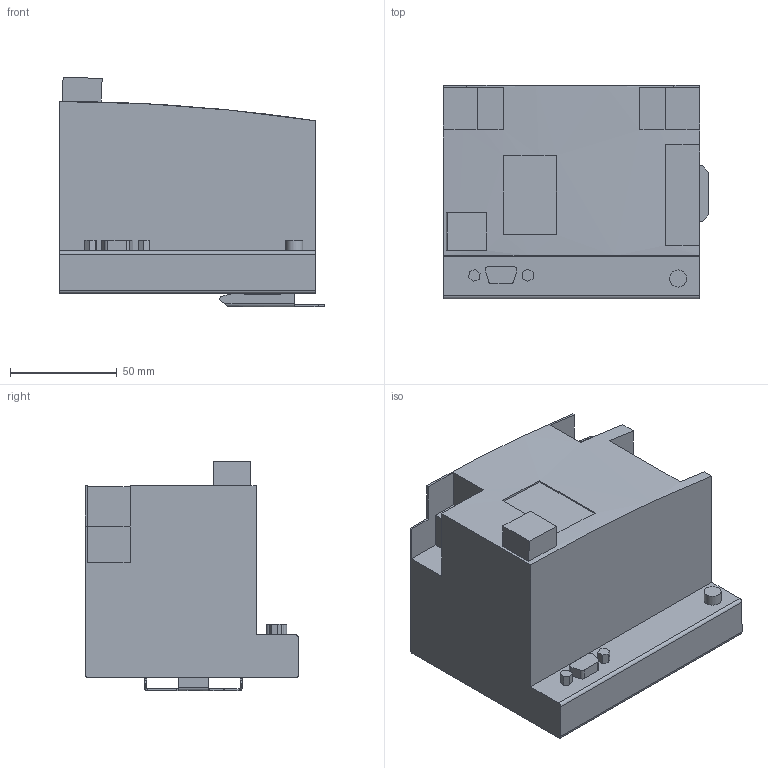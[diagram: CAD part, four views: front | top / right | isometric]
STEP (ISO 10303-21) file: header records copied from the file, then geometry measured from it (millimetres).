
FILE_DESCRIPTION(/* description */ ('Alibre Inc.'),/* implementation_level */ '2;1');
FILE_NAME(/* name */ 'export0',/* time_stamp */ '2012-02-14T09:34:58+01:00',/* author */ (''),/* organization */ (''),/* preprocessor_version */ 'ST-DEVELOPER v14',/* originating_system */ 'Alibre',/* authorisation */ '');
FILE_SCHEMA (('CONFIG_CONTROL_DESIGN'));
Length unit declared in the file: centimetre
Products named in the file (3): ID_1; ID_2; ID_3
Bounding box: 124.2 x 100 x 107.63 mm (x, y, z)
Volume: 843107 mm3; surface area: 68316.5 mm2
Topology: 2 solids, 2 shells, 157 faces, 443 edges, 294 vertices
Faces by surface type: plane 140, cylinder 15, bspline 2
Full cylindrical faces by diameter (mm): 8 x1
Entity records: 5197 total; most frequent: CARTESIAN_POINT 946, ORIENTED_EDGE 884, DIRECTION 658, EDGE_CURVE 442, VECTOR 391, LINE 391, VERTEX_POINT 294, AXIS2_PLACEMENT_3D 203
